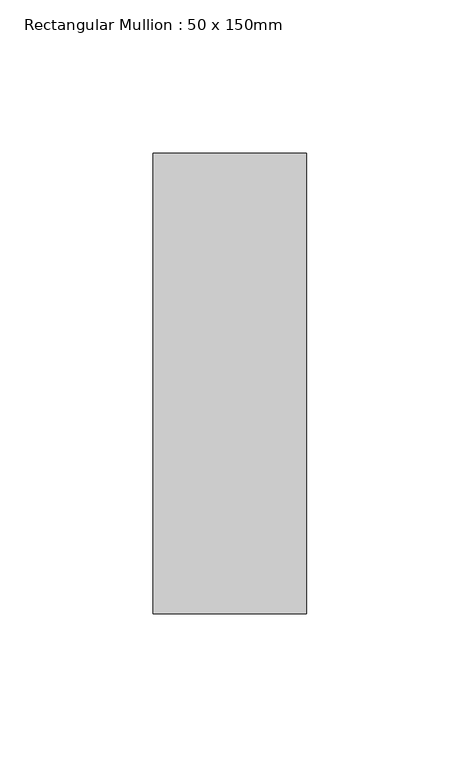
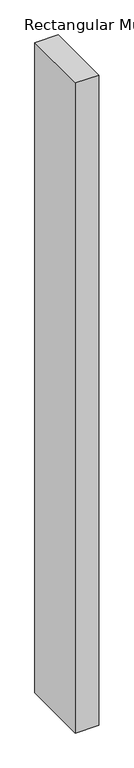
"""IFC4 building model written with IfcOpenShell, lengths in millimetres: member geometry, Rectangular Mullion : 50 x 150mm."""

from ifc_helpers import new_model, si_unit, frame, origin, place, context, project, spatial, polyline, outline, extrude, source, transform, mapped, element, save


def rectangular_mullion_50_x_150mm_1929d193(model_context):
    return source(origin(), model_context, "Body", "SweptSolid", [
        extrude(outline(polyline([(25.0, 75.0), (25.0, -75.0), (-25.0, -75.0), (-25.0, 75.0), (25.0, 75.0)])), frame((0.0, 0.0, -1473.9999998), z_axis=(0.0, 0.0, 1.0), x_axis=(1.0, 0.0, 0.0)), (0.0, 0.0, 1.0), 1473.9999998),
    ])


if __name__ == "__main__":
    model = new_model("IFC4")
    model_context = context("Model", 3, world=origin())
    ifc_project = project(units=[si_unit("LENGTHUNIT", "METRE", prefix="MILLI")], contexts=[model_context])
    site = spatial("IfcSite", under=ifc_project)
    building = spatial("IfcBuilding", under=site)
    placement = place(None, origin())
    rectangular_mullion_50_x_150mm_shape = rectangular_mullion_50_x_150mm_1929d193(model_context)
    element("IfcMember", 1, ObjectType="Rectangular Mullion : 50 x 150mm", at=placement, inside=building, context=model_context, shape_type="MappedRepresentation", body=[
        mapped(rectangular_mullion_50_x_150mm_shape, transform((0.0, 0.0, 0.0), x_axis=(1.0, 0.0, 0.0), y_axis=(0.0, 1.0, 0.0), z_axis=(0.0, 0.0, 1.0))),
    ])
    save(model, "model.ifc")
